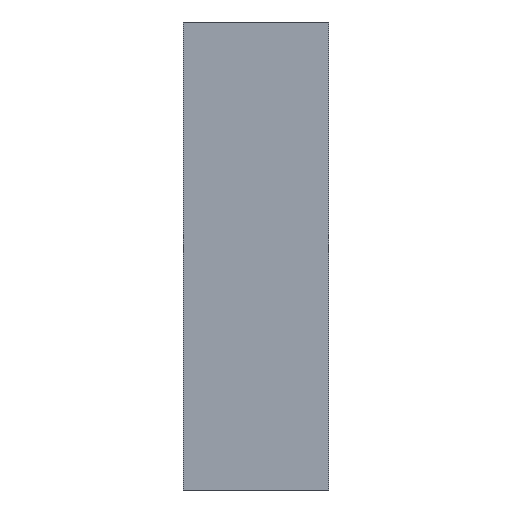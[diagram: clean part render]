
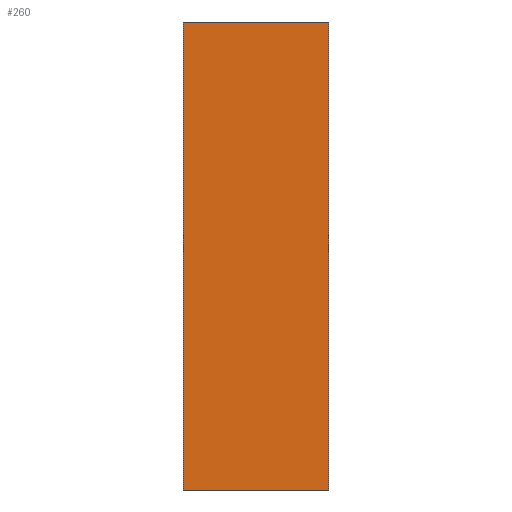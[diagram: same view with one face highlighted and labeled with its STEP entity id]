
A CAD part, front view. The second image highlights one B-rep face of the part: STEP entity #260.
In plain terms, the highlighted planar face has unit normal (0, -1, 0).
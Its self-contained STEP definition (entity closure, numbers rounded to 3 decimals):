
#24=FACE_OUTER_BOUND('',#38,.T.);
#38=EDGE_LOOP('',(#185,#186,#187,#188));
#58=LINE('',#382,#90);
#59=LINE('',#385,#91);
#60=LINE('',#387,#92);
#61=LINE('',#388,#93);
#90=VECTOR('',#308,100.);
#91=VECTOR('',#311,31.1);
#92=VECTOR('',#312,31.1);
#93=VECTOR('',#313,100.);
#119=VERTEX_POINT('',#378);
#120=VERTEX_POINT('',#380);
#121=VERTEX_POINT('',#384);
#122=VERTEX_POINT('',#386);
#146=EDGE_CURVE('',#119,#120,#58,.T.);
#147=EDGE_CURVE('',#121,#119,#59,.T.);
#148=EDGE_CURVE('',#122,#120,#60,.T.);
#149=EDGE_CURVE('',#121,#122,#61,.T.);
#185=ORIENTED_EDGE('',*,*,#147,.T.);
#186=ORIENTED_EDGE('',*,*,#146,.T.);
#187=ORIENTED_EDGE('',*,*,#148,.F.);
#188=ORIENTED_EDGE('',*,*,#149,.F.);
#248=PLANE('',#276);
#260=ADVANCED_FACE('',(#24),#248,.T.);
#276=AXIS2_PLACEMENT_3D('',#383,#309,#310);
#308=DIRECTION('',(0.,0.,1.));
#309=DIRECTION('center_axis',(0.,-1.,0.));
#310=DIRECTION('ref_axis',(1.,0.,0.));
#311=DIRECTION('',(1.,0.,0.));
#312=DIRECTION('',(1.,0.,0.));
#313=DIRECTION('',(0.,0.,1.));
#378=CARTESIAN_POINT('',(31.161,-0.021,0.));
#380=CARTESIAN_POINT('',(31.161,-0.021,100.));
#382=CARTESIAN_POINT('',(31.161,-0.021,0.));
#383=CARTESIAN_POINT('Origin',(0.061,-0.021,0.));
#384=CARTESIAN_POINT('',(0.061,-0.021,0.));
#385=CARTESIAN_POINT('',(0.061,-0.021,0.));
#386=CARTESIAN_POINT('',(0.061,-0.021,100.));
#387=CARTESIAN_POINT('',(0.061,-0.021,100.));
#388=CARTESIAN_POINT('',(0.061,-0.021,0.));
